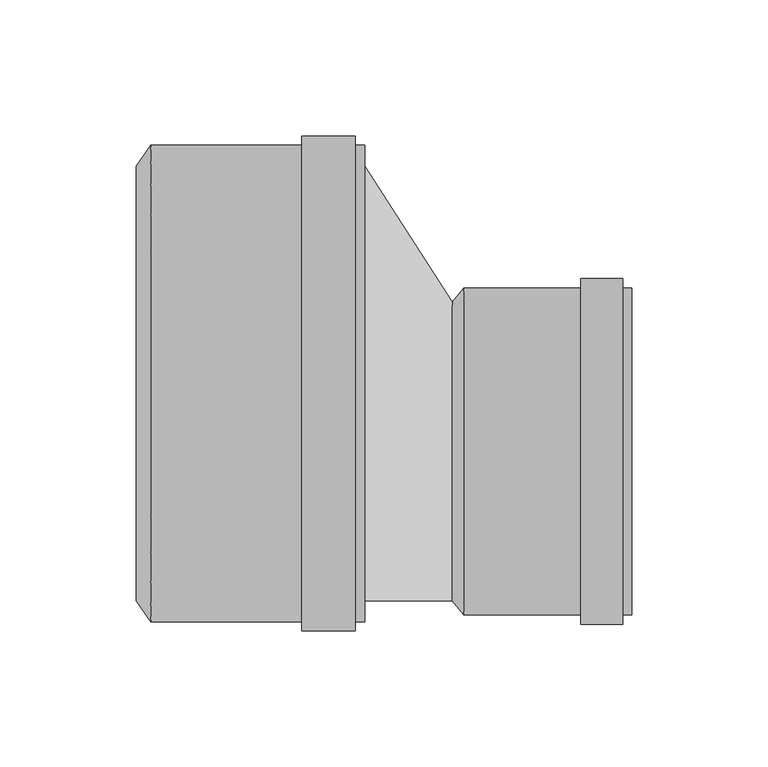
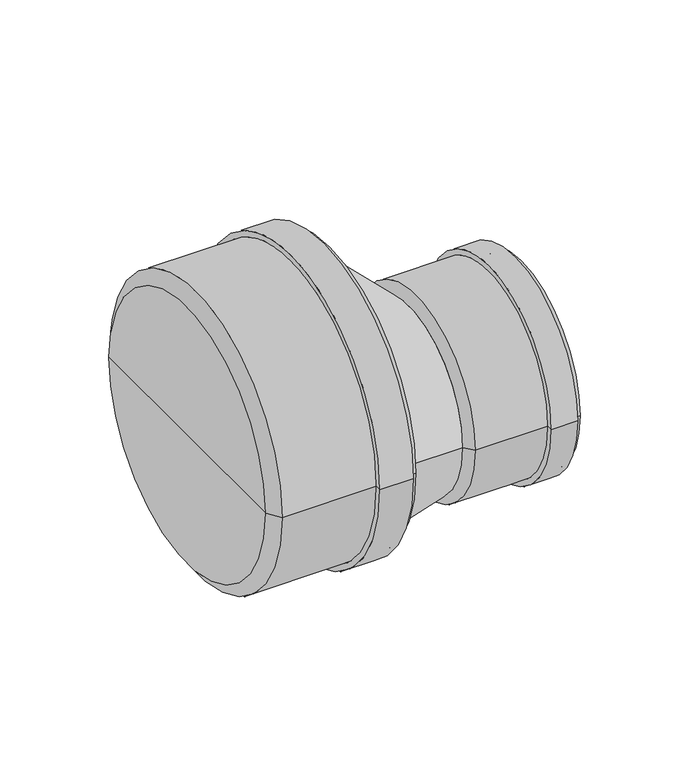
"""IFC4 building model written with IfcOpenShell, lengths in millimetres: pipe fitting geometry, pf_KGR_red-nes : pf_KGR_red-nes."""

from ifc_helpers import new_model, si_unit, frame, origin, place, context, project, spatial, polyline, circle_curve, source, transform, mapped, element, save
from ifc_brep_helpers import plane_surface, cylinder_surface, revolved_surface, spline_surface, advanced_brep


def pipe_fitting_a5079038(model_context):
    return source(origin(), model_context, "Body", "AdvancedBrep", [
        advanced_brep(
        [(-84.0, -80.0, 0.0), (-84.0, 80.0, 0.0), (-78.6, 87.6, 0.0), (-78.6, -87.6, 0.0), (-84.0, 0.0, 0.0), (0.0, -87.6, 0.0), (0.0, 87.6, 0.0), (0.0, 80.0, 0.0), (0.0, -80.0, 0.0), (-3.4, -87.6, 0.0), (-3.4, 87.6, 0.0), (-3.4, -91.0, 0.0), (-3.4, 91.0, 0.0), (-23.1, -91.0, 0.0), (-23.1, 91.0, 0.0), (-23.1, -87.6, 0.0), (-23.1, 87.6, 0.0), (-78.6, -80.0, 0.0), (-78.6, 80.0, 0.0), (-78.6, 0.0, 0.0)],
        [
            (0, 1, circle_curve(frame((-84.0, 0.0, 0.0), z_axis=(1.0, 0.0, 0.0), x_axis=(0.0, 1.0, 0.0)), 80.0)),
            (1, 2),
            (2, 3, circle_curve(frame((-78.6, 0.0, 0.0), z_axis=(-1.0, 0.0, 0.0), x_axis=(0.0, 1.0, 0.0)), 87.6)),
            (3, 0),
            (1, 0, circle_curve(frame((-84.0, 0.0, 0.0), z_axis=(1.0, 0.0, 0.0), x_axis=(0.0, 1.0, 0.0)), 80.0)),
            (3, 2, circle_curve(frame((-78.6, 0.0, 0.0), z_axis=(-1.0, 0.0, 0.0), x_axis=(0.0, 1.0, 0.0)), 87.6)),
            (4, 1),
            (0, 4),
            (5, 6, circle_curve(frame((0.0, 0.0, 0.0), z_axis=(1.0, 0.0, 0.0), x_axis=(0.0, 1.0, 0.0)), 87.6)),
            (6, 7),
            (7, 8, circle_curve(frame((0.0, 0.0, 0.0), z_axis=(-1.0, 0.0, 0.0), x_axis=(0.0, 1.0, 0.0)), 80.0)),
            (8, 5),
            (6, 5, circle_curve(frame((0.0, 0.0, 0.0), z_axis=(1.0, 0.0, 0.0), x_axis=(0.0, 1.0, 0.0)), 87.6)),
            (8, 7, circle_curve(frame((0.0, 0.0, 0.0), z_axis=(-1.0, 0.0, 0.0), x_axis=(0.0, 1.0, 0.0)), 80.0)),
            (9, 10, circle_curve(frame((-3.4, 0.0, 0.0), z_axis=(1.0, 0.0, 0.0), x_axis=(0.0, 1.0, 0.0)), 87.6)),
            (10, 6),
            (5, 9),
            (10, 9, circle_curve(frame((-3.4, 0.0, 0.0), z_axis=(1.0, 0.0, 0.0), x_axis=(0.0, 1.0, 0.0)), 87.6)),
            (11, 12, circle_curve(frame((-3.4, 0.0, 0.0), z_axis=(1.0, 0.0, 0.0), x_axis=(0.0, 1.0, 0.0)), 91.0)),
            (12, 10),
            (9, 11),
            (12, 11, circle_curve(frame((-3.4, 0.0, 0.0), z_axis=(1.0, 0.0, 0.0), x_axis=(0.0, 1.0, 0.0)), 91.0)),
            (13, 14, circle_curve(frame((-23.1, 0.0, 0.0), z_axis=(1.0, 0.0, 0.0), x_axis=(0.0, 1.0, 0.0)), 91.0)),
            (14, 12),
            (11, 13),
            (14, 13, circle_curve(frame((-23.1, 0.0, 0.0), z_axis=(1.0, 0.0, 0.0), x_axis=(0.0, 1.0, 0.0)), 91.0)),
            (15, 16, circle_curve(frame((-23.1, 0.0, 0.0), z_axis=(1.0, 0.0, 0.0), x_axis=(0.0, 1.0, 0.0)), 87.6)),
            (16, 14),
            (13, 15),
            (16, 15, circle_curve(frame((-23.1, 0.0, 0.0), z_axis=(1.0, 0.0, 0.0), x_axis=(0.0, 1.0, 0.0)), 87.6)),
            (2, 16),
            (15, 3),
            (17, 18, circle_curve(frame((-78.6, 0.0, 0.0), z_axis=(1.0, 0.0, 0.0), x_axis=(0.0, 1.0, 0.0)), 80.0)),
            (18, 19),
            (19, 17),
            (18, 17, circle_curve(frame((-78.6, 0.0, 0.0), z_axis=(1.0, 0.0, 0.0), x_axis=(0.0, 1.0, 0.0)), 80.0)),
            (7, 18),
            (17, 8),
        ],
        [
            revolved_surface(polyline([(-78.6, 87.6, 0.0), (-84.0, 80.0, 0.0)]), (-84.0, 0.0, 0.0), (-1.0, 0.0, 0.0)),
            plane_surface(frame((-84.0, 0.0, 0.0), z_axis=(-1.0, 0.0, 0.0), x_axis=(0.0, 1.0, 0.0))),
            plane_surface(frame((0.0, 0.0, 0.0), z_axis=(1.0, 0.0, 0.0), x_axis=(0.0, 1.0, 0.0))),
            cylinder_surface(frame((-84.0, 0.0, 0.0), z_axis=(-1.0, 0.0, 0.0), x_axis=(0.0, 1.0, 0.0)), 87.6),
            plane_surface(frame((-3.4, 0.0, 0.0), z_axis=(1.0, 0.0, 0.0), x_axis=(0.0, 1.0, 0.0))),
            cylinder_surface(frame((-84.0, 0.0, 0.0), z_axis=(-1.0, 0.0, 0.0), x_axis=(0.0, 1.0, 0.0)), 91.0),
            plane_surface(frame((-23.1, 0.0, 0.0), z_axis=(-1.0, 0.0, 0.0), x_axis=(0.0, 1.0, 0.0))),
            plane_surface(frame((-78.6, 0.0, 0.0), z_axis=(1.0, 0.0, 0.0), x_axis=(0.0, 1.0, 0.0))),
            revolved_surface(polyline([(-78.6, 80.0, 0.0), (0.0, 80.0, 0.0)]), (-84.0, 0.0, 0.0), (-1.0, 0.0, 0.0)),
        ],
        [
            (0, [[1, 2, 3, 4]]),
            (0, [[5, -4, 6, -2]]),
            (1, [[7, -1, 8]]),
            (1, [[-8, -5, -7]]),
            (2, [[9, 10, 11, 12]]),
            (2, [[13, -12, 14, -10]]),
            (3, [[15, 16, -9, 17]]),
            (3, [[18, -17, -13, -16]]),
            (4, [[19, 20, -15, 21]]),
            (4, [[22, -21, -18, -20]]),
            (5, [[23, 24, -19, 25]]),
            (5, [[26, -25, -22, -24]]),
            (6, [[27, 28, -23, 29]]),
            (6, [[30, -29, -26, -28]]),
            (3, [[-3, 31, -27, 32]]),
            (3, [[-6, -32, -30, -31]]),
            (7, [[33, 34, 35]]),
            (7, [[36, -35, -34]]),
            (8, [[-11, 37, -33, 38]]),
            (8, [[-14, -38, -36, -37]]),
        ],
    ),
        advanced_brep(
        [(32.25, -80.0, 0.0), (32.25, 30.0, 0.0), (36.45, 35.1, 0.0), (36.45, -85.1, 0.0), (32.25, -25.0, 0.0), (98.25, -85.1, 0.0), (98.25, 35.1, 0.0), (98.25, 30.0, 0.0), (98.25, -80.0, 0.0), (94.85, -85.1, 0.0), (94.85, 35.1, 0.0), (94.85, -88.5, 0.0), (94.85, 38.5, 0.0), (79.35, -88.5, 0.0), (79.35, 38.5, 0.0), (79.35, -85.1, 0.0), (79.35, 35.1, 0.0), (36.45, -80.0, 0.0), (36.45, 30.0, 0.0), (36.45, -25.0, 0.0)],
        [
            (0, 1, circle_curve(frame((32.25, -25.0, 0.0), z_axis=(1.0, 0.0, 0.0), x_axis=(0.0, 1.0, 0.0)), 55.0)),
            (1, 2),
            (2, 3, circle_curve(frame((36.45, -25.0, 0.0), z_axis=(-1.0, 0.0, 0.0), x_axis=(0.0, 1.0, 0.0)), 60.1)),
            (3, 0),
            (1, 0, circle_curve(frame((32.25, -25.0, 0.0), z_axis=(1.0, 0.0, 0.0), x_axis=(0.0, 1.0, 0.0)), 55.0)),
            (3, 2, circle_curve(frame((36.45, -25.0, 0.0), z_axis=(-1.0, 0.0, 0.0), x_axis=(0.0, 1.0, 0.0)), 60.1)),
            (4, 1),
            (0, 4),
            (5, 6, circle_curve(frame((98.25, -25.0, 0.0), z_axis=(1.0, 0.0, 0.0), x_axis=(0.0, 1.0, 0.0)), 60.1)),
            (6, 7),
            (7, 8, circle_curve(frame((98.25, -25.0, 0.0), z_axis=(-1.0, 0.0, 0.0), x_axis=(0.0, 1.0, 0.0)), 55.0)),
            (8, 5),
            (6, 5, circle_curve(frame((98.25, -25.0, 0.0), z_axis=(1.0, 0.0, 0.0), x_axis=(0.0, 1.0, 0.0)), 60.1)),
            (8, 7, circle_curve(frame((98.25, -25.0, 0.0), z_axis=(-1.0, 0.0, 0.0), x_axis=(0.0, 1.0, 0.0)), 55.0)),
            (9, 10, circle_curve(frame((94.85, -25.0, 0.0), z_axis=(1.0, 0.0, 0.0), x_axis=(0.0, 1.0, 0.0)), 60.1)),
            (10, 6),
            (5, 9),
            (10, 9, circle_curve(frame((94.85, -25.0, 0.0), z_axis=(1.0, 0.0, 0.0), x_axis=(0.0, 1.0, 0.0)), 60.1)),
            (11, 12, circle_curve(frame((94.85, -25.0, 0.0), z_axis=(1.0, 0.0, 0.0), x_axis=(0.0, 1.0, 0.0)), 63.5)),
            (12, 10),
            (9, 11),
            (12, 11, circle_curve(frame((94.85, -25.0, 0.0), z_axis=(1.0, 0.0, 0.0), x_axis=(0.0, 1.0, 0.0)), 63.5)),
            (13, 14, circle_curve(frame((79.35, -25.0, 0.0), z_axis=(1.0, 0.0, 0.0), x_axis=(0.0, 1.0, 0.0)), 63.5)),
            (14, 12),
            (11, 13),
            (14, 13, circle_curve(frame((79.35, -25.0, 0.0), z_axis=(1.0, 0.0, 0.0), x_axis=(0.0, 1.0, 0.0)), 63.5)),
            (15, 16, circle_curve(frame((79.35, -25.0, 0.0), z_axis=(1.0, 0.0, 0.0), x_axis=(0.0, 1.0, 0.0)), 60.1)),
            (16, 14),
            (13, 15),
            (16, 15, circle_curve(frame((79.35, -25.0, 0.0), z_axis=(1.0, 0.0, 0.0), x_axis=(0.0, 1.0, 0.0)), 60.1)),
            (2, 16),
            (15, 3),
            (17, 18, circle_curve(frame((36.45, -25.0, 0.0), z_axis=(1.0, 0.0, 0.0), x_axis=(0.0, 1.0, 0.0)), 55.0)),
            (18, 19),
            (19, 17),
            (18, 17, circle_curve(frame((36.45, -25.0, 0.0), z_axis=(1.0, 0.0, 0.0), x_axis=(0.0, 1.0, 0.0)), 55.0)),
            (7, 18),
            (17, 8),
        ],
        [
            revolved_surface(polyline([(36.45, 35.1, 0.0), (32.25, 30.0, 0.0)]), (32.25, -25.0, 0.0), (-1.0, 0.0, 0.0)),
            plane_surface(frame((32.25, -25.0, 0.0), z_axis=(-1.0, 0.0, 0.0), x_axis=(0.0, 1.0, 0.0))),
            plane_surface(frame((98.25, -25.0, 0.0), z_axis=(1.0, 0.0, 0.0), x_axis=(0.0, 1.0, 0.0))),
            cylinder_surface(frame((32.25, -25.0, 0.0), z_axis=(-1.0, 0.0, 0.0), x_axis=(0.0, 1.0, 0.0)), 60.1),
            plane_surface(frame((94.85, -25.0, 0.0), z_axis=(1.0, 0.0, 0.0), x_axis=(0.0, 1.0, 0.0))),
            cylinder_surface(frame((32.25, -25.0, 0.0), z_axis=(-1.0, 0.0, 0.0), x_axis=(0.0, 1.0, 0.0)), 63.5),
            plane_surface(frame((79.35, -25.0, 0.0), z_axis=(-1.0, 0.0, 0.0), x_axis=(0.0, 1.0, 0.0))),
            plane_surface(frame((36.45, -25.0, 0.0), z_axis=(1.0, 0.0, 0.0), x_axis=(0.0, 1.0, 0.0))),
            revolved_surface(polyline([(36.45, 30.0, 0.0), (98.25, 30.0, 0.0)]), (32.25, -25.0, 0.0), (-1.0, 0.0, 0.0)),
        ],
        [
            (0, [[1, 2, 3, 4]]),
            (0, [[5, -4, 6, -2]]),
            (1, [[7, -1, 8]]),
            (1, [[-8, -5, -7]]),
            (2, [[9, 10, 11, 12]]),
            (2, [[13, -12, 14, -10]]),
            (3, [[15, 16, -9, 17]]),
            (3, [[18, -17, -13, -16]]),
            (4, [[19, 20, -15, 21]]),
            (4, [[22, -21, -18, -20]]),
            (5, [[23, 24, -19, 25]]),
            (5, [[26, -25, -22, -24]]),
            (6, [[27, 28, -23, 29]]),
            (6, [[30, -29, -26, -28]]),
            (3, [[-3, 31, -27, 32]]),
            (3, [[-6, -32, -30, -31]]),
            (7, [[33, 34, 35]]),
            (7, [[36, -35, -34]]),
            (8, [[-11, 37, -33, 38]]),
            (8, [[-14, -38, -36, -37]]),
        ],
    ),
        advanced_brep(
        [(32.25, -80.0, 0.0), (32.25, 30.0, 0.0), (0.0, -80.0, 0.0), (0.0, 80.0, 0.0)],
        [
            (0, 1, circle_curve(frame((32.25, -25.0, 0.0), z_axis=(1.0, 0.0, 0.0), x_axis=(0.0, 1.0, 0.0)), 55.0)),
            (1, 0, circle_curve(frame((32.25, -25.0, 0.0), z_axis=(1.0, 0.0, 0.0), x_axis=(0.0, 1.0, 0.0)), 55.0)),
            (2, 3, circle_curve(frame((0.0, 0.0, 0.0), z_axis=(-1.0, 0.0, 0.0), x_axis=(0.0, 1.0, 0.0)), 80.0)),
            (3, 2, circle_curve(frame((0.0, 0.0, 0.0), z_axis=(-1.0, 0.0, 0.0), x_axis=(0.0, 1.0, 0.0)), 80.0)),
            (3, 1),
            (0, 2),
        ],
        [
            plane_surface(frame((32.25, -25.0, 0.0), z_axis=(1.0, 0.0, 0.0), x_axis=(0.0, 0.0, -1.0))),
            plane_surface(frame((0.0, 0.0, 0.0), z_axis=(-1.0, 0.0, 0.0), x_axis=(0.0, 0.0, -1.0))),
            spline_surface(2, 1, [[(0.0, -80.0, 0.0), (32.25, -80.0, 0.0)], [(0.0, -80.0, -80.0), (32.25, -80.0, -55.0)], [(0.0, 0.0, -80.0), (32.25, -25.0, -55.0)], [(0.0, 80.0, -80.0), (32.25, 30.0, -55.0)], [(0.0, 80.0, 0.0), (32.25, 30.0, 0.0)]], [3, 2, 3], [2, 2], [0.0, 1.0, 2.0], [0.0, 1.0], weights=[[1.0, 1.0], [0.7071067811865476, 0.7071067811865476], [1.0, 1.0], [0.7071067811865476, 0.7071067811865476], [1.0, 1.0]]),
            spline_surface(2, 1, [[(0.0, 80.0, 0.0), (32.25, 30.0, 0.0)], [(0.0, 80.0, 80.0), (32.25, 30.0, 55.0)], [(0.0, 0.0, 80.0), (32.25, -25.0, 55.0)], [(0.0, -80.0, 80.0), (32.25, -80.0, 55.0)], [(0.0, -80.0, 0.0), (32.25, -80.0, 0.0)]], [3, 2, 3], [2, 2], [0.0, 1.0, 2.0], [0.0, 1.0], weights=[[1.0, 1.0], [0.7071067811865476, 0.7071067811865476], [1.0, 1.0], [0.7071067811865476, 0.7071067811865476], [1.0, 1.0]]),
        ],
        [
            (0, [[1, 2]]),
            (1, [[3, 4]]),
            (2, [[-4, 5, -1, 6]]),
            (3, [[-3, -6, -2, -5]]),
        ],
    ),
    ])


if __name__ == "__main__":
    model = new_model("IFC4")
    model_context = context("Model", 3, world=origin())
    ifc_project = project(units=[si_unit("LENGTHUNIT", "METRE", prefix="MILLI")], contexts=[model_context])
    site = spatial("IfcSite", under=ifc_project)
    building = spatial("IfcBuilding", under=site)
    placement = place(None, origin())
    pipe_fitting_shape = pipe_fitting_a5079038(model_context)
    element("IfcPipeFitting", 1, ObjectType="pf_KGR_red-nes : pf_KGR_red-nes", at=placement, inside=building, context=model_context, shape_type="MappedRepresentation", body=[
        mapped(pipe_fitting_shape, transform((0.0, 0.0, 0.0), x_axis=(1.0, 0.0, 0.0), y_axis=(0.0, 1.0, 0.0), z_axis=(0.0, 0.0, 1.0))),
    ])
    save(model, "model.ifc")
